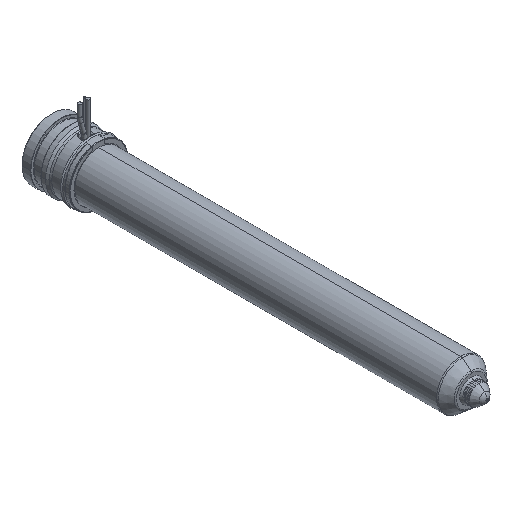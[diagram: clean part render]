
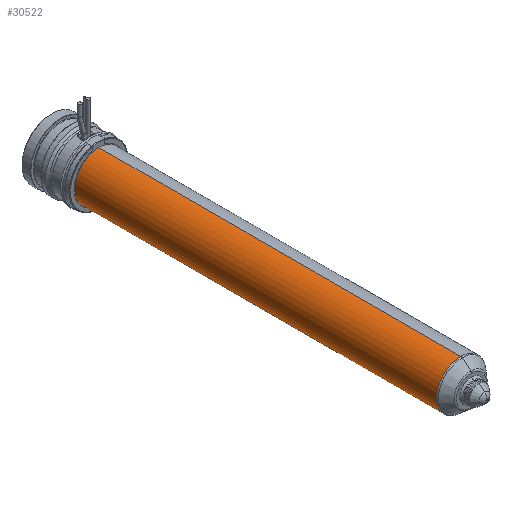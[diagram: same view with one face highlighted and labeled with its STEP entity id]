
A CAD part, isometric view. The second image highlights one B-rep face of the part: STEP entity #30522.
In plain terms, the highlighted cylindrical face has radius 12 mm (diameter 24 mm), a partial arc.
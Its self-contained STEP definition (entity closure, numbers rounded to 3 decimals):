
#29915=CARTESIAN_POINT('',(0.,-203.736,0.));
#29916=DIRECTION('',(0.,-1.,0.));
#29917=DIRECTION('',(0.,0.,1.));
#29918=AXIS2_PLACEMENT_3D('',#29915,#29916,#29917);
#29923=CARTESIAN_POINT('',(0.,-24.,0.));
#29924=DIRECTION('',(0.,1.,0.));
#29925=DIRECTION('',(0.,0.,-1.));
#29926=AXIS2_PLACEMENT_3D('',#29923,#29924,#29925);
#29931=DIRECTION('',(0.,1.,0.));
#29932=VECTOR('',#29931,179.736);
#29933=CARTESIAN_POINT('',(0.,-203.736,12.));
#29934=LINE('',#29933,#29932);
#29946=DIRECTION('',(0.,1.,0.));
#29947=VECTOR('',#29946,179.736);
#29948=CARTESIAN_POINT('',(0.,-203.736,-12.));
#29949=LINE('',#29948,#29947);
#30127=CARTESIAN_POINT('',(0.,-203.736,12.));
#30128=CARTESIAN_POINT('',(0.,-24.,12.));
#30129=VERTEX_POINT('',#30127);
#30130=VERTEX_POINT('',#30128);
#30131=CARTESIAN_POINT('',(0.,-203.736,-12.));
#30132=CARTESIAN_POINT('',(0.,-24.,-12.));
#30133=VERTEX_POINT('',#30131);
#30134=VERTEX_POINT('',#30132);
#30508=CARTESIAN_POINT('',(0.,-10.125,0.));
#30509=DIRECTION('',(0.,-1.,0.));
#30510=DIRECTION('',(0.,0.,1.));
#30511=AXIS2_PLACEMENT_3D('',#30508,#30509,#30510);
#30512=CYLINDRICAL_SURFACE('',#30511,12.);
#30514=ORIENTED_EDGE('',*,*,#30513,.F.);
#30515=ORIENTED_EDGE('',*,*,#30503,.T.);
#30517=ORIENTED_EDGE('',*,*,#30516,.T.);
#30519=ORIENTED_EDGE('',*,*,#30518,.T.);
#30520=EDGE_LOOP('',(#30514,#30515,#30517,#30519));
#30521=FACE_OUTER_BOUND('',#30520,.F.);
#30522=ADVANCED_FACE('',(#30521),#30512,.T.);
#29919=CIRCLE('',#29918,12.);
#29927=CIRCLE('',#29926,12.);
#30503=EDGE_CURVE('',#30129,#30133,#29919,.T.);
#30513=EDGE_CURVE('',#30129,#30130,#29934,.T.);
#30516=EDGE_CURVE('',#30133,#30134,#29949,.T.);
#30518=EDGE_CURVE('',#30134,#30130,#29927,.T.);
